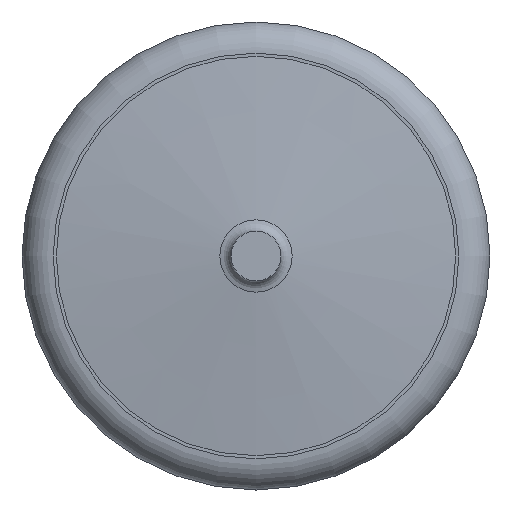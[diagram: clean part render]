
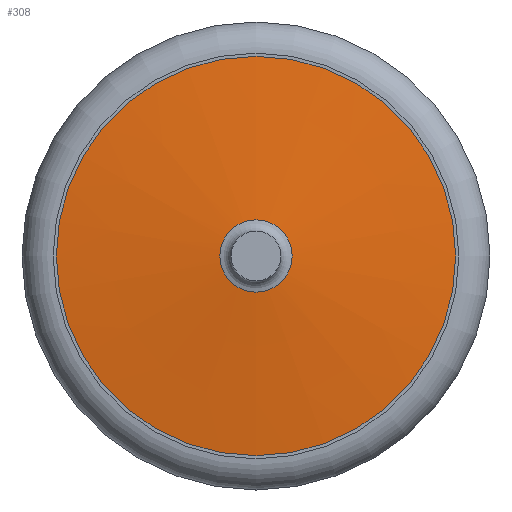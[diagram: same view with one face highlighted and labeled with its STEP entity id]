
A CAD part, left-side view. The second image highlights one B-rep face of the part: STEP entity #308.
In plain terms, the highlighted conical face has half-angle 83.884 degrees and reference radius 1.8 mm.
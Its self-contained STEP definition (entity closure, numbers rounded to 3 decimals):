
#14=CONICAL_SURFACE('',#349,1.8,83.884);
#38=FACE_BOUND('',#96,.T.);
#63=FACE_OUTER_BOUND('',#95,.T.);
#95=EDGE_LOOP('',(#225));
#96=EDGE_LOOP('',(#226));
#142=CIRCLE('',#348,0.579);
#143=CIRCLE('',#350,3.2);
#168=VERTEX_POINT('',#515);
#169=VERTEX_POINT('',#518);
#194=EDGE_CURVE('',#168,#168,#142,.T.);
#195=EDGE_CURVE('',#169,#169,#143,.T.);
#225=ORIENTED_EDGE('',*,*,#195,.T.);
#226=ORIENTED_EDGE('',*,*,#194,.F.);
#308=ADVANCED_FACE('',(#63,#38),#14,.T.);
#348=AXIS2_PLACEMENT_3D('',#516,#413,#414);
#349=AXIS2_PLACEMENT_3D('',#517,#415,#416);
#350=AXIS2_PLACEMENT_3D('',#519,#417,#418);
#413=DIRECTION('center_axis',(-1.,0.,0.));
#414=DIRECTION('ref_axis',(0.,0.,-1.));
#415=DIRECTION('center_axis',(1.,0.,0.));
#416=DIRECTION('ref_axis',(0.,0.,-1.));
#417=DIRECTION('center_axis',(-1.,0.,0.));
#418=DIRECTION('ref_axis',(0.,0.,-1.));
#515=CARTESIAN_POINT('',(-13.281,0.,0.579));
#516=CARTESIAN_POINT('Origin',(-13.281,0.,0.));
#517=CARTESIAN_POINT('Origin',(-13.15,0.,0.));
#518=CARTESIAN_POINT('',(-13.,0.,3.2));
#519=CARTESIAN_POINT('Origin',(-13.,0.,0.));
